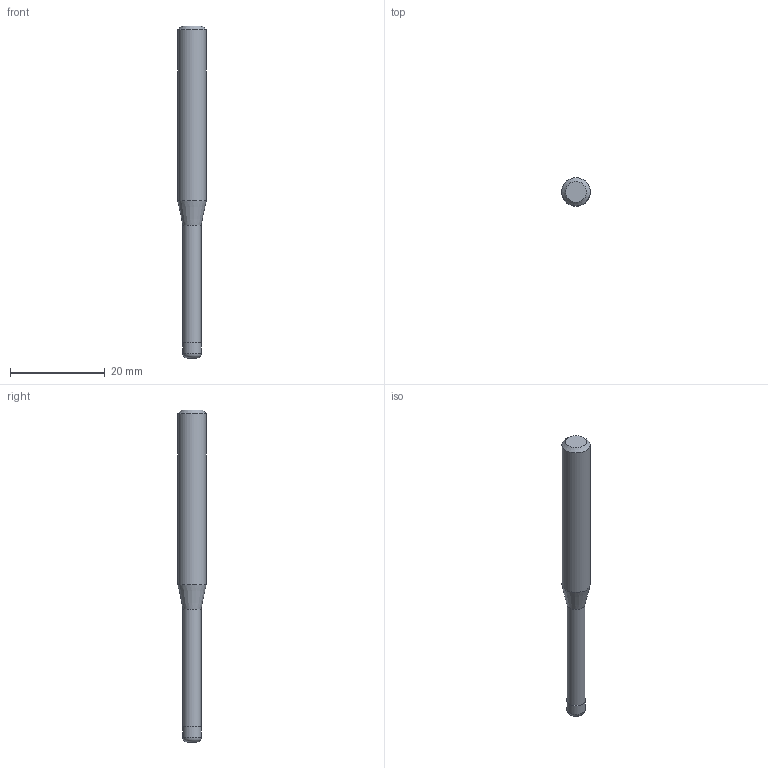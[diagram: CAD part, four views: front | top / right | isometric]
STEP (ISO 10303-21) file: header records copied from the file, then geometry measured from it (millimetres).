
FILE_DESCRIPTION((''),'2;1');
FILE_NAME('C:\Users\nsx150\AppData\Local\Temp\Mastercam 2021\CSMVKW3037\TEMP.step','2023-06-23T16:04:48',(''),(''),'STEP Write','Mastercam 2021 ... CNC Software, Inc.','');
FILE_SCHEMA(('AUTOMOTIVE_DESIGN'));
Length unit declared in the file: millimetre
Products named in the file (1): None
Bounding box: 6 x 6 x 70 mm (x, y, z)
Volume: 1454 mm3; surface area: 1161.1 mm2
Topology: 2 solids, 2 shells, 10 faces, 14 edges, 8 vertices
Faces by surface type: plane 4, cylinder 3, cone 2, torus 1
Full cylindrical faces by diameter (mm): 3.8 x1, 4 x1, 6 x1
Entity records: 232 total; most frequent: DIRECTION 40, CARTESIAN_POINT 28, AXIS2_PLACEMENT_3D 20, ORIENTED_EDGE 16, EDGE_LOOP 16, STYLED_ITEM 13, ADVANCED_FACE 10, FACE_BOUND 10
